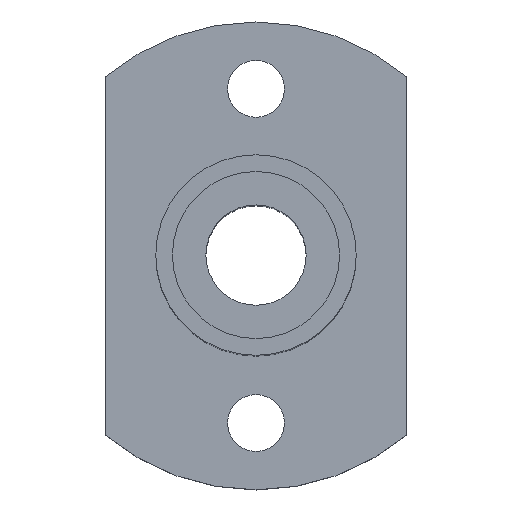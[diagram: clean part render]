
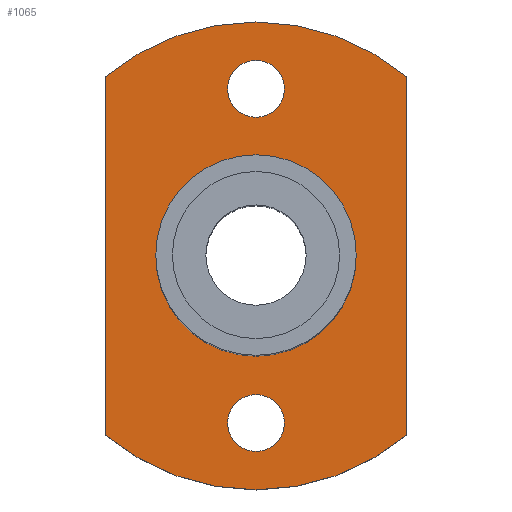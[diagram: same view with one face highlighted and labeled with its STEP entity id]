
A CAD part, top view. The second image highlights one B-rep face of the part: STEP entity #1065.
In plain terms, the highlighted planar face has unit normal (0, 0, 1).
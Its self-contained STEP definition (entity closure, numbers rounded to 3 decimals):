
#91=CARTESIAN_POINT('',(-2.,-5.494,5.0));
#92=VERTEX_POINT('',#91);
#101=CARTESIAN_POINT('',(10.,-5.494,5.0));
#102=VERTEX_POINT('',#101);
#103=CARTESIAN_POINT('',(4.,-5.494,5.0));
#104=DIRECTION('',(0.0,0.0,-1.0));
#105=DIRECTION('',(-1.0,0.0,0.0));
#106=AXIS2_PLACEMENT_3D('',#103,#104,#105);
#107=CIRCLE('',#106,6.);
#108=EDGE_CURVE('',#102,#92,#107,.T.);
#280=CARTESIAN_POINT('',(2.3,-15.494,5.0));
#281=VERTEX_POINT('',#280);
#290=CARTESIAN_POINT('',(5.7,-15.494,5.0));
#291=VERTEX_POINT('',#290);
#292=CARTESIAN_POINT('',(4.,-15.494,5.0));
#293=DIRECTION('',(0.0,0.0,-1.0));
#294=DIRECTION('',(-1.0,0.0,0.0));
#295=AXIS2_PLACEMENT_3D('',#292,#293,#294);
#296=CIRCLE('',#295,1.7);
#297=EDGE_CURVE('',#291,#281,#296,.T.);
#406=CARTESIAN_POINT('',(2.3,4.506,5.0));
#407=VERTEX_POINT('',#406);
#416=CARTESIAN_POINT('',(5.7,4.506,5.0));
#417=VERTEX_POINT('',#416);
#418=CARTESIAN_POINT('',(4.,4.506,5.0));
#419=DIRECTION('',(0.0,0.0,-1.0));
#420=DIRECTION('',(-1.0,0.0,0.0));
#421=AXIS2_PLACEMENT_3D('',#418,#419,#420);
#422=CIRCLE('',#421,1.7);
#423=EDGE_CURVE('',#417,#407,#422,.T.);
#600=CARTESIAN_POINT('',(4.,4.506,5.0));
#601=DIRECTION('',(0.0,0.0,-1.0));
#602=DIRECTION('',(-1.0,0.0,0.0));
#603=AXIS2_PLACEMENT_3D('',#600,#601,#602);
#604=CIRCLE('',#603,1.7);
#605=EDGE_CURVE('',#407,#417,#604,.T.);
#704=CARTESIAN_POINT('',(4.,-15.494,5.0));
#705=DIRECTION('',(0.0,0.0,-1.0));
#706=DIRECTION('',(-1.0,0.0,0.0));
#707=AXIS2_PLACEMENT_3D('',#704,#705,#706);
#708=CIRCLE('',#707,1.7);
#709=EDGE_CURVE('',#281,#291,#708,.T.);
#908=CARTESIAN_POINT('',(4.,-5.494,5.0));
#909=DIRECTION('',(0.0,0.0,-1.0));
#910=DIRECTION('',(-1.0,0.0,0.0));
#911=AXIS2_PLACEMENT_3D('',#908,#909,#910);
#912=CIRCLE('',#911,6.);
#913=EDGE_CURVE('',#92,#102,#912,.T.);
#949=CARTESIAN_POINT('',(13.,-16.218,5.0));
#950=VERTEX_POINT('',#949);
#951=CARTESIAN_POINT('',(-5.,-16.218,5.0));
#952=VERTEX_POINT('',#951);
#953=CARTESIAN_POINT('',(4.,-5.494,5.0));
#954=DIRECTION('',(0.0,0.0,-1.0));
#955=DIRECTION('',(-0.643,-0.766,0.0));
#956=AXIS2_PLACEMENT_3D('',#953,#954,#955);
#957=CIRCLE('',#956,14.);
#958=EDGE_CURVE('',#950,#952,#957,.T.);
#981=CARTESIAN_POINT('',(-5.0,5.229,5.0));
#982=VERTEX_POINT('',#981);
#983=CARTESIAN_POINT('',(-5.,-16.218,5.0));
#984=DIRECTION('',(0.0,1.0,0.0));
#985=VECTOR('',#984,21.448);
#986=LINE('',#983,#985);
#987=EDGE_CURVE('',#952,#982,#986,.T.);
#1005=CARTESIAN_POINT('',(13.,5.229,5.0));
#1006=VERTEX_POINT('',#1005);
#1007=CARTESIAN_POINT('',(4.,-5.494,5.0));
#1008=DIRECTION('',(0.0,0.0,-1.0));
#1009=DIRECTION('',(0.643,0.766,0.0));
#1010=AXIS2_PLACEMENT_3D('',#1007,#1008,#1009);
#1011=CIRCLE('',#1010,14.);
#1012=EDGE_CURVE('',#982,#1006,#1011,.T.);
#1030=CARTESIAN_POINT('',(13.,5.229,5.0));
#1031=DIRECTION('',(0.0,-1.0,0.0));
#1032=VECTOR('',#1031,21.448);
#1033=LINE('',#1030,#1032);
#1034=EDGE_CURVE('',#1006,#950,#1033,.T.);
#1042=CARTESIAN_POINT('',(4.,-5.494,5.0));
#1043=DIRECTION('',(0.0,0.0,1.0));
#1044=DIRECTION('',(1.0,0.0,0.0));
#1045=AXIS2_PLACEMENT_3D('',#1042,#1043,#1044);
#1046=PLANE('',#1045);
#1047=ORIENTED_EDGE('',*,*,#958,.F.);
#1048=ORIENTED_EDGE('',*,*,#1034,.F.);
#1049=ORIENTED_EDGE('',*,*,#1012,.F.);
#1050=ORIENTED_EDGE('',*,*,#987,.F.);
#1051=EDGE_LOOP('',(#1047,#1048,#1049,#1050));
#1052=FACE_OUTER_BOUND('',#1051,.T.);
#1053=ORIENTED_EDGE('',*,*,#423,.T.);
#1054=ORIENTED_EDGE('',*,*,#605,.T.);
#1055=EDGE_LOOP('',(#1053,#1054));
#1056=FACE_BOUND('',#1055,.T.);
#1057=ORIENTED_EDGE('',*,*,#297,.T.);
#1058=ORIENTED_EDGE('',*,*,#709,.T.);
#1059=EDGE_LOOP('',(#1057,#1058));
#1060=FACE_BOUND('',#1059,.T.);
#1061=ORIENTED_EDGE('',*,*,#108,.T.);
#1062=ORIENTED_EDGE('',*,*,#913,.T.);
#1063=EDGE_LOOP('',(#1061,#1062));
#1064=FACE_BOUND('',#1063,.T.);
#1065=ADVANCED_FACE('',(#1052,#1056,#1060,#1064),#1046,.T.);
